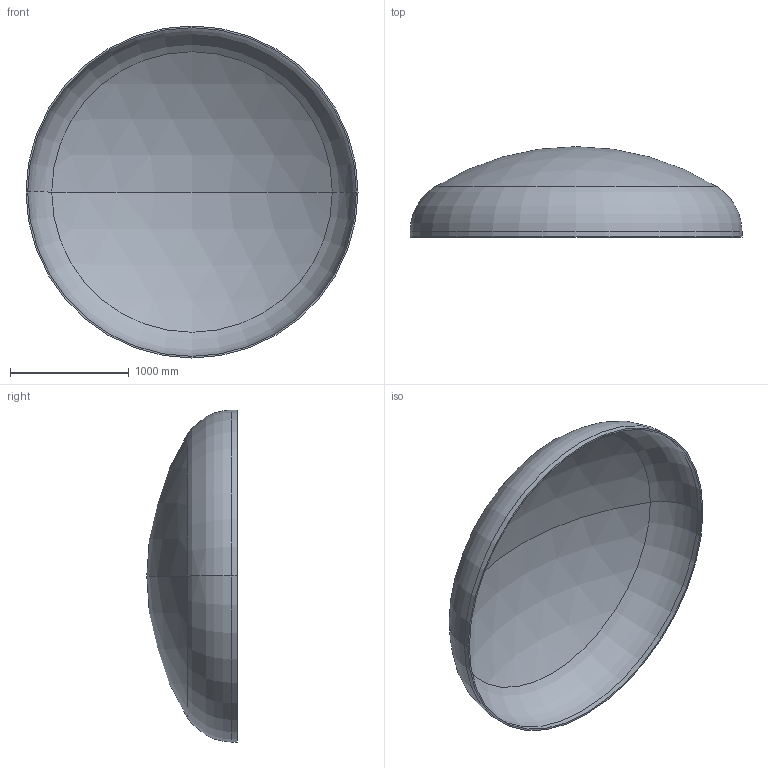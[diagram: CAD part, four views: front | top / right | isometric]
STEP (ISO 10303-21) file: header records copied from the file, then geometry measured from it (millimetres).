
FILE_DESCRIPTION (( 'STEP AP203' ), '1' );
FILE_NAME ('DIN 28013 Korbbogenform_-_Boden DIN 28013 - 2800 x 45 - I - s=14.step', '2016-07-01T16:43:25', ( '' ), ( '' ), 'SwSTEP 2.0', 'SolidWorks 2013', '' );
FILE_SCHEMA (( 'CONFIG_CONTROL_DESIGN' ));
Length unit declared in the file: millimetre
Products named in the file (1): DIN 28013 Korbbogenform_-_Boden DIN 28013 - 2800 x 45 - I - s=14
Bounding box: 2800 x 762.07 x 2800 mm (x, y, z)
Volume: 124060448 mm3; surface area: 17845859.3 mm2
Topology: 1 solids, 1 shells, 13 faces, 24 edges, 14 vertices
Faces by surface type: torus 4, cylinder 4, sphere 4, plane 1
Entity records: 407 total; most frequent: DIRECTION 72, CARTESIAN_POINT 52, ORIENTED_EDGE 48, AXIS2_PLACEMENT_3D 34, EDGE_CURVE 24, CIRCLE 20, EDGE_LOOP 14, VERTEX_POINT 14
